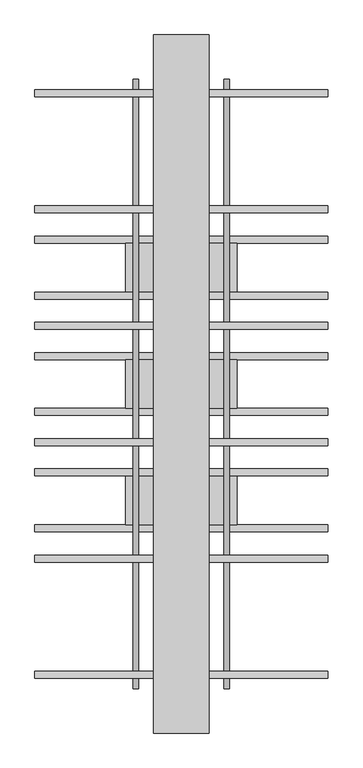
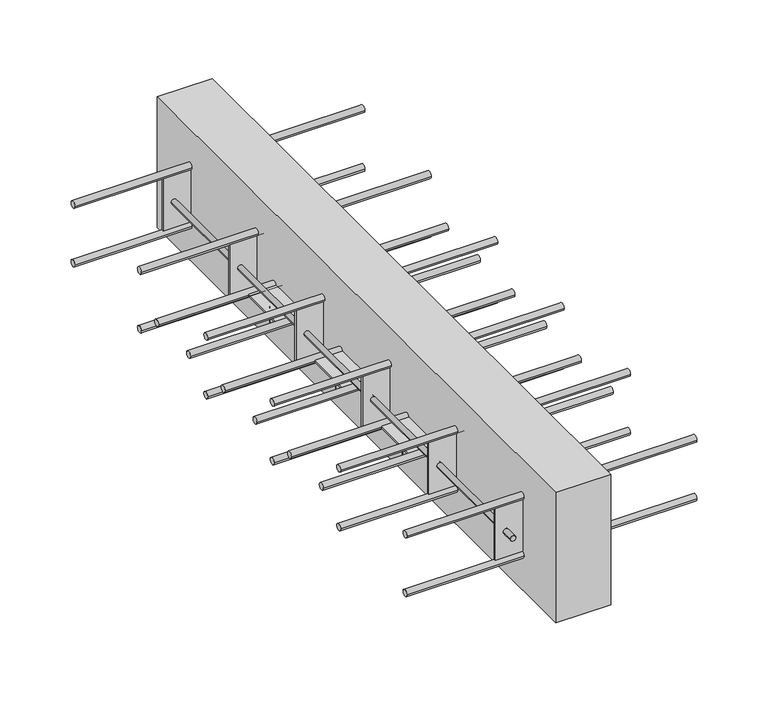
"""IFC4 building model written with IfcOpenShell, lengths in millimetres: proxy geometry, ACINOXplus_Typenreihe_Q : QE+ S3."""

from ifc_helpers import new_model, si_unit, point, frame, frame_2d, origin, place, context, project, spatial, polyline, circle_curve, trimmed, segment, composite_curve, outline, extrude, source, transform, mapped, element, save
from ifc_brep_helpers import plane_surface, cylinder_surface, advanced_brep


def generic_models_2d4dc69f(model_context):
    return source(origin(), model_context, "Body", "SolidModel", [
        extrude(outline(composite_curve([segment(trimmed(circle_curve(frame_2d((-40.0, -109.0)), 5.0), [point((-45.0, -109.0))], [point((-35.0, -109.0))], False, "CARTESIAN"), True, "CONTINUOUS"), segment(trimmed(circle_curve(frame_2d((-40.0, -109.0)), 5.0), [point((-35.0, -109.0))], [point((-45.0, -109.0))], False, "CARTESIAN"), True, "CONTINUOUS")], self_intersect=False)), frame((-210.0, 0.0, 0.0), z_axis=(1.0, 0.0, 0.0), x_axis=(0.0, 1.0, 0.0)), (0.0, 0.0, 1.0), 420.0),
        extrude(outline(composite_curve([segment(trimmed(circle_curve(frame_2d((40.0, -109.0)), 5.0), [point((35.0, -109.0))], [point((45.0, -109.0))], False, "CARTESIAN"), True, "CONTINUOUS"), segment(trimmed(circle_curve(frame_2d((40.0, -109.0)), 5.0), [point((45.0, -109.0))], [point((35.0, -109.0))], False, "CARTESIAN"), True, "CONTINUOUS")], self_intersect=False)), frame((-210.0, 0.0, 0.0), z_axis=(1.0, 0.0, 0.0), x_axis=(0.0, 1.0, 0.0)), (0.0, 0.0, 1.0), 420.0),
        advanced_brep(
        [(-69.0, 0.0, -137.0), (-61.0, 0.0, -137.0), (61.0, 0.0, -137.0), (69.0, 0.0, -137.0), (-61.0, 0.0, -110.5), (-69.0, 0.0, -110.5), (69.0, 0.0, -110.5), (61.0, 0.0, -110.5), (80.0, 35.0, -107.5), (-80.0, 35.0, -107.5), (-80.0, -35.0, -107.5), (80.0, -35.0, -107.5), (80.0, 35.0, -110.5), (80.0, -35.0, -110.5), (-80.0, -35.0, -110.5), (-80.0, 35.0, -110.5)],
        [
            (0, 1, circle_curve(frame((-65.0, 0.0, -137.0), z_axis=(0.0, 0.0, -1.0), x_axis=(1.0, 0.0, 0.0)), 4.0)),
            (1, 0, circle_curve(frame((-65.0, 0.0, -137.0), z_axis=(0.0, 0.0, -1.0), x_axis=(1.0, 0.0, 0.0)), 4.0)),
            (2, 3, circle_curve(frame((65.0, 0.0, -137.0), z_axis=(0.0, 0.0, -1.0), x_axis=(1.0, 0.0, 0.0)), 4.0)),
            (3, 2, circle_curve(frame((65.0, 0.0, -137.0), z_axis=(0.0, 0.0, -1.0), x_axis=(1.0, 0.0, 0.0)), 4.0)),
            (1, 4),
            (4, 5, circle_curve(frame((-65.0, 0.0, -110.5), z_axis=(0.0, 0.0, -1.0), x_axis=(1.0, 0.0, 0.0)), 4.0)),
            (5, 0),
            (5, 4, circle_curve(frame((-65.0, 0.0, -110.5), z_axis=(0.0, 0.0, -1.0), x_axis=(1.0, 0.0, 0.0)), 4.0)),
            (3, 6),
            (6, 7, circle_curve(frame((65.0, 0.0, -110.5), z_axis=(0.0, 0.0, -1.0), x_axis=(1.0, 0.0, 0.0)), 4.0)),
            (7, 2),
            (7, 6, circle_curve(frame((65.0, 0.0, -110.5), z_axis=(0.0, 0.0, -1.0), x_axis=(1.0, 0.0, 0.0)), 4.0)),
            (8, 9),
            (9, 10),
            (10, 11),
            (11, 8),
            (12, 13),
            (13, 14),
            (14, 15),
            (15, 12),
            (8, 12),
            (15, 9),
            (14, 10),
            (13, 11),
        ],
        [
            plane_surface(frame((-61.0, 0.0, -137.0), z_axis=(0.0, 0.0, -1.0), x_axis=(0.0, -1.0, 0.0))),
            cylinder_surface(frame((-65.0, 0.0, -137.0), z_axis=(0.0, 0.0, 1.0), x_axis=(1.0, 0.0, 0.0)), 4.0),
            cylinder_surface(frame((65.0, 0.0, -109.0), z_axis=(0.0, 0.0, 1.0), x_axis=(1.0, 0.0, 0.0)), 4.0),
            plane_surface(frame((-80.0, 35.0, -107.5), z_axis=(0.0, 0.0, 1.0), x_axis=(-1.0, 0.0, 0.0))),
            plane_surface(frame((-80.0, 35.0, -110.5), z_axis=(0.0, 0.0, -1.0), x_axis=(1.0, 0.0, 0.0))),
            plane_surface(frame((80.0, 35.0, -107.5), z_axis=(0.0, 1.0, 0.0), x_axis=(0.0, 0.0, -1.0))),
            plane_surface(frame((-80.0, 35.0, -107.5), z_axis=(-1.0, 0.0, 0.0), x_axis=(0.0, 0.0, -1.0))),
            plane_surface(frame((-80.0, -35.0, -107.5), z_axis=(0.0, -1.0, 0.0), x_axis=(0.0, 0.0, -1.0))),
            plane_surface(frame((80.0, -35.0, -107.5), z_axis=(1.0, 0.0, 0.0), x_axis=(0.0, 0.0, -1.0))),
        ],
        [
            (0, [[1, 2]]),
            (0, [[3, 4]]),
            (1, [[-2, 5, 6, 7]]),
            (1, [[-1, -7, 8, -5]]),
            (2, [[-4, 9, 10, 11]]),
            (2, [[-3, -11, 12, -9]]),
            (3, [[13, 14, 15, 16]]),
            (4, [[17, 18, 19, 20], [-6, -8], [-10, -12]]),
            (5, [[-13, 21, -20, 22]]),
            (6, [[-14, -22, -19, 23]]),
            (7, [[-15, -23, -18, 24]]),
            (8, [[-16, -24, -17, -21]]),
        ],
    ),
        extrude(outline(composite_curve([segment(trimmed(circle_curve(frame_2d((-206.6666667, -109.0)), 5.0), [point((-211.6666667, -109.0))], [point((-201.6666667, -109.0))], False, "CARTESIAN"), True, "CONTINUOUS"), segment(trimmed(circle_curve(frame_2d((-206.6666667, -109.0)), 5.0), [point((-201.6666667, -109.0))], [point((-211.6666667, -109.0))], False, "CARTESIAN"), True, "CONTINUOUS")], self_intersect=False)), frame((-210.0, 0.0, 0.0), z_axis=(1.0, 0.0, 0.0), x_axis=(0.0, 1.0, 0.0)), (0.0, 0.0, 1.0), 420.0),
        extrude(outline(composite_curve([segment(trimmed(circle_curve(frame_2d((-126.6666667, -109.0)), 5.0), [point((-131.6666667, -109.0))], [point((-121.6666667, -109.0))], False, "CARTESIAN"), True, "CONTINUOUS"), segment(trimmed(circle_curve(frame_2d((-126.6666667, -109.0)), 5.0), [point((-121.6666667, -109.0))], [point((-131.6666667, -109.0))], False, "CARTESIAN"), True, "CONTINUOUS")], self_intersect=False)), frame((-210.0, 0.0, 0.0), z_axis=(1.0, 0.0, 0.0), x_axis=(0.0, 1.0, 0.0)), (0.0, 0.0, 1.0), 420.0),
        advanced_brep(
        [(-69.0, -166.6666667, -137.0), (-61.0, -166.6666667, -137.0), (61.0, -166.6666667, -137.0), (69.0, -166.6666667, -137.0), (-61.0, -166.6666667, -110.5), (-69.0, -166.6666667, -110.5), (69.0, -166.6666667, -110.5), (61.0, -166.6666667, -110.5), (80.0, -131.6666667, -107.5), (-80.0, -131.6666667, -107.5), (-80.0, -201.6666667, -107.5), (80.0, -201.6666667, -107.5), (80.0, -131.6666667, -110.5), (80.0, -201.6666667, -110.5), (-80.0, -201.6666667, -110.5), (-80.0, -131.6666667, -110.5)],
        [
            (0, 1, circle_curve(frame((-65.0, -166.6666667, -137.0), z_axis=(0.0, 0.0, -1.0), x_axis=(1.0, 0.0, 0.0)), 4.0)),
            (1, 0, circle_curve(frame((-65.0, -166.6666667, -137.0), z_axis=(0.0, 0.0, -1.0), x_axis=(1.0, 0.0, 0.0)), 4.0)),
            (2, 3, circle_curve(frame((65.0, -166.6666667, -137.0), z_axis=(0.0, 0.0, -1.0), x_axis=(1.0, 0.0, 0.0)), 4.0)),
            (3, 2, circle_curve(frame((65.0, -166.6666667, -137.0), z_axis=(0.0, 0.0, -1.0), x_axis=(1.0, 0.0, 0.0)), 4.0)),
            (1, 4),
            (4, 5, circle_curve(frame((-65.0, -166.6666667, -110.5), z_axis=(0.0, 0.0, -1.0), x_axis=(1.0, 0.0, 0.0)), 4.0)),
            (5, 0),
            (5, 4, circle_curve(frame((-65.0, -166.6666667, -110.5), z_axis=(0.0, 0.0, -1.0), x_axis=(1.0, 0.0, 0.0)), 4.0)),
            (3, 6),
            (6, 7, circle_curve(frame((65.0, -166.6666667, -110.5), z_axis=(0.0, 0.0, -1.0), x_axis=(1.0, 0.0, 0.0)), 4.0)),
            (7, 2),
            (7, 6, circle_curve(frame((65.0, -166.6666667, -110.5), z_axis=(0.0, 0.0, -1.0), x_axis=(1.0, 0.0, 0.0)), 4.0)),
            (8, 9),
            (9, 10),
            (10, 11),
            (11, 8),
            (12, 13),
            (13, 14),
            (14, 15),
            (15, 12),
            (8, 12),
            (15, 9),
            (14, 10),
            (13, 11),
        ],
        [
            plane_surface(frame((-61.0, -166.6666667, -137.0), z_axis=(0.0, 0.0, -1.0), x_axis=(0.0, -1.0, 0.0))),
            cylinder_surface(frame((-65.0, -166.6666667, -137.0), z_axis=(0.0, 0.0, 1.0), x_axis=(1.0, 0.0, 0.0)), 4.0),
            cylinder_surface(frame((65.0, -166.6666667, -109.0), z_axis=(0.0, 0.0, 1.0), x_axis=(1.0, 0.0, 0.0)), 4.0),
            plane_surface(frame((-80.0, -131.6666667, -107.5), z_axis=(0.0, 0.0, 1.0), x_axis=(-1.0, 0.0, 0.0))),
            plane_surface(frame((-80.0, -131.6666667, -110.5), z_axis=(0.0, 0.0, -1.0), x_axis=(1.0, 0.0, 0.0))),
            plane_surface(frame((80.0, -131.6666667, -107.5), z_axis=(0.0, 1.0, 0.0), x_axis=(0.0, 0.0, -1.0))),
            plane_surface(frame((-80.0, -131.6666667, -107.5), z_axis=(-1.0, 0.0, 0.0), x_axis=(0.0, 0.0, -1.0))),
            plane_surface(frame((-80.0, -201.6666667, -107.5), z_axis=(0.0, -1.0, 0.0), x_axis=(0.0, 0.0, -1.0))),
            plane_surface(frame((80.0, -201.6666667, -107.5), z_axis=(1.0, 0.0, 0.0), x_axis=(0.0, 0.0, -1.0))),
        ],
        [
            (0, [[1, 2]]),
            (0, [[3, 4]]),
            (1, [[-2, 5, 6, 7]]),
            (1, [[-1, -7, 8, -5]]),
            (2, [[-4, 9, 10, 11]]),
            (2, [[-3, -11, 12, -9]]),
            (3, [[13, 14, 15, 16]]),
            (4, [[17, 18, 19, 20], [-6, -8], [-10, -12]]),
            (5, [[-13, 21, -20, 22]]),
            (6, [[-14, -22, -19, 23]]),
            (7, [[-15, -23, -18, 24]]),
            (8, [[-16, -24, -17, -21]]),
        ],
    ),
        extrude(outline(composite_curve([segment(trimmed(circle_curve(frame_2d((126.6666667, -109.0)), 5.0), [point((121.6666667, -109.0))], [point((131.6666667, -109.0))], False, "CARTESIAN"), True, "CONTINUOUS"), segment(trimmed(circle_curve(frame_2d((126.6666667, -109.0)), 5.0), [point((131.6666667, -109.0))], [point((121.6666667, -109.0))], False, "CARTESIAN"), True, "CONTINUOUS")], self_intersect=False)), frame((-210.0, 0.0, 0.0), z_axis=(1.0, 0.0, 0.0), x_axis=(0.0, 1.0, 0.0)), (0.0, 0.0, 1.0), 420.0),
        extrude(outline(composite_curve([segment(trimmed(circle_curve(frame_2d((206.6666667, -109.0)), 5.0), [point((201.6666667, -109.0))], [point((211.6666667, -109.0))], False, "CARTESIAN"), True, "CONTINUOUS"), segment(trimmed(circle_curve(frame_2d((206.6666667, -109.0)), 5.0), [point((211.6666667, -109.0))], [point((201.6666667, -109.0))], False, "CARTESIAN"), True, "CONTINUOUS")], self_intersect=False)), frame((-210.0, 0.0, 0.0), z_axis=(1.0, 0.0, 0.0), x_axis=(0.0, 1.0, 0.0)), (0.0, 0.0, 1.0), 420.0),
        advanced_brep(
        [(-69.0, 166.6666667, -137.0), (-61.0, 166.6666667, -137.0), (61.0, 166.6666667, -137.0), (69.0, 166.6666667, -137.0), (-61.0, 166.6666667, -110.5), (-69.0, 166.6666667, -110.5), (69.0, 166.6666667, -110.5), (61.0, 166.6666667, -110.5), (80.0, 201.6666667, -107.5), (-80.0, 201.6666667, -107.5), (-80.0, 131.6666667, -107.5), (80.0, 131.6666667, -107.5), (80.0, 201.6666667, -110.5), (80.0, 131.6666667, -110.5), (-80.0, 131.6666667, -110.5), (-80.0, 201.6666667, -110.5)],
        [
            (0, 1, circle_curve(frame((-65.0, 166.6666667, -137.0), z_axis=(0.0, 0.0, -1.0), x_axis=(1.0, 0.0, 0.0)), 4.0)),
            (1, 0, circle_curve(frame((-65.0, 166.6666667, -137.0), z_axis=(0.0, 0.0, -1.0), x_axis=(1.0, 0.0, 0.0)), 4.0)),
            (2, 3, circle_curve(frame((65.0, 166.6666667, -137.0), z_axis=(0.0, 0.0, -1.0), x_axis=(1.0, 0.0, 0.0)), 4.0)),
            (3, 2, circle_curve(frame((65.0, 166.6666667, -137.0), z_axis=(0.0, 0.0, -1.0), x_axis=(1.0, 0.0, 0.0)), 4.0)),
            (1, 4),
            (4, 5, circle_curve(frame((-65.0, 166.6666667, -110.5), z_axis=(0.0, 0.0, -1.0), x_axis=(1.0, 0.0, 0.0)), 4.0)),
            (5, 0),
            (5, 4, circle_curve(frame((-65.0, 166.6666667, -110.5), z_axis=(0.0, 0.0, -1.0), x_axis=(1.0, 0.0, 0.0)), 4.0)),
            (3, 6),
            (6, 7, circle_curve(frame((65.0, 166.6666667, -110.5), z_axis=(0.0, 0.0, -1.0), x_axis=(1.0, 0.0, 0.0)), 4.0)),
            (7, 2),
            (7, 6, circle_curve(frame((65.0, 166.6666667, -110.5), z_axis=(0.0, 0.0, -1.0), x_axis=(1.0, 0.0, 0.0)), 4.0)),
            (8, 9),
            (9, 10),
            (10, 11),
            (11, 8),
            (12, 13),
            (13, 14),
            (14, 15),
            (15, 12),
            (8, 12),
            (15, 9),
            (14, 10),
            (13, 11),
        ],
        [
            plane_surface(frame((-61.0, 166.6666667, -137.0), z_axis=(0.0, 0.0, -1.0), x_axis=(0.0, -1.0, 0.0))),
            cylinder_surface(frame((-65.0, 166.6666667, -137.0), z_axis=(0.0, 0.0, 1.0), x_axis=(1.0, 0.0, 0.0)), 4.0),
            cylinder_surface(frame((65.0, 166.6666667, -109.0), z_axis=(0.0, 0.0, 1.0), x_axis=(1.0, 0.0, 0.0)), 4.0),
            plane_surface(frame((-80.0, 201.6666667, -107.5), z_axis=(0.0, 0.0, 1.0), x_axis=(-1.0, 0.0, 0.0))),
            plane_surface(frame((-80.0, 201.6666667, -110.5), z_axis=(0.0, 0.0, -1.0), x_axis=(1.0, 0.0, 0.0))),
            plane_surface(frame((80.0, 201.6666667, -107.5), z_axis=(0.0, 1.0, 0.0), x_axis=(0.0, 0.0, -1.0))),
            plane_surface(frame((-80.0, 201.6666667, -107.5), z_axis=(-1.0, 0.0, 0.0), x_axis=(0.0, 0.0, -1.0))),
            plane_surface(frame((-80.0, 131.6666667, -107.5), z_axis=(0.0, -1.0, 0.0), x_axis=(0.0, 0.0, -1.0))),
            plane_surface(frame((80.0, 131.6666667, -107.5), z_axis=(1.0, 0.0, 0.0), x_axis=(0.0, 0.0, -1.0))),
        ],
        [
            (0, [[1, 2]]),
            (0, [[3, 4]]),
            (1, [[-2, 5, 6, 7]]),
            (1, [[-1, -7, 8, -5]]),
            (2, [[-4, 9, 10, 11]]),
            (2, [[-3, -11, 12, -9]]),
            (3, [[13, 14, 15, 16]]),
            (4, [[17, 18, 19, 20], [-6, -8], [-10, -12]]),
            (5, [[-13, 21, -20, 22]]),
            (6, [[-14, -22, -19, 23]]),
            (7, [[-15, -23, -18, 24]]),
            (8, [[-16, -24, -17, -21]]),
        ],
    ),
        extrude(outline(polyline([(40.0, 500.0), (40.0, -500.0), (-40.0, -500.0), (-40.0, 500.0), (40.0, 500.0)])), frame((0.0, 0.0, -200.0), z_axis=(0.0, 0.0, 1.0), x_axis=(1.0, 0.0, 0.0)), (0.0, 0.0, 1.0), 200.0),
        extrude(outline(polyline([(80.0, -248.5), (80.0, -251.5), (-80.0, -251.5), (-80.0, -248.5), (80.0, -248.5)])), frame((0.0, 0.0, -140.0), z_axis=(0.0, 0.0, 1.0), x_axis=(1.0, 0.0, 0.0)), (0.0, 0.0, 1.0), 80.0),
        extrude(outline(polyline([(80.0, -81.8333333), (80.0, -84.8333333), (-80.0, -84.8333333), (-80.0, -81.8333333), (80.0, -81.8333333)])), frame((0.0, 0.0, -140.0), z_axis=(0.0, 0.0, 1.0), x_axis=(1.0, 0.0, 0.0)), (0.0, 0.0, 1.0), 80.0),
        extrude(outline(polyline([(80.0, 84.8333333), (80.0, 81.8333333), (-80.0, 81.8333333), (-80.0, 84.8333333), (80.0, 84.8333333)])), frame((0.0, 0.0, -140.0), z_axis=(0.0, 0.0, 1.0), x_axis=(1.0, 0.0, 0.0)), (0.0, 0.0, 1.0), 80.0),
        extrude(outline(polyline([(80.0, 251.5), (80.0, 248.5), (-80.0, 248.5), (-80.0, 251.5), (80.0, 251.5)])), frame((0.0, 0.0, -140.0), z_axis=(0.0, 0.0, 1.0), x_axis=(1.0, 0.0, 0.0)), (0.0, 0.0, 1.0), 80.0),
        extrude(outline(polyline([(80.0, -415.1666667), (80.0, -418.1666667), (-80.0, -418.1666667), (-80.0, -415.1666667), (80.0, -415.1666667)])), frame((0.0, 0.0, -140.0), z_axis=(0.0, 0.0, 1.0), x_axis=(1.0, 0.0, 0.0)), (0.0, 0.0, 1.0), 80.0),
        extrude(outline(polyline([(80.0, 418.1666667), (80.0, 415.1666667), (-80.0, 415.1666667), (-80.0, 418.1666667), (80.0, 418.1666667)])), frame((0.0, 0.0, -140.0), z_axis=(0.0, 0.0, 1.0), x_axis=(1.0, 0.0, 0.0)), (0.0, 0.0, 1.0), 80.0),
        extrude(outline(composite_curve([segment(trimmed(circle_curve(frame_2d((-100.0, -65.0)), 4.0), [point((-100.0, -69.0))], [point((-100.0, -61.0))], False, "CARTESIAN"), True, "CONTINUOUS"), segment(trimmed(circle_curve(frame_2d((-100.0, -65.0)), 4.0), [point((-100.0, -61.0))], [point((-100.0, -69.0))], False, "CARTESIAN"), True, "CONTINUOUS")], self_intersect=False)), frame((0.0, -415.1666667, 0.0), z_axis=(0.0, 1.0, 0.0), x_axis=(0.0, 0.0, 1.0)), (0.0, 0.0, 1.0), 663.6666667),
        extrude(outline(composite_curve([segment(trimmed(circle_curve(frame_2d((-100.0, -65.0)), 4.0), [point((-100.0, -69.0))], [point((-100.0, -61.0))], False, "CARTESIAN"), True, "CONTINUOUS"), segment(trimmed(circle_curve(frame_2d((-100.0, -65.0)), 4.0), [point((-100.0, -61.0))], [point((-100.0, -69.0))], False, "CARTESIAN"), True, "CONTINUOUS")], self_intersect=False)), frame((0.0, 418.1666667, 0.0), z_axis=(0.0, 1.0, 0.0), x_axis=(0.0, 0.0, 1.0)), (0.0, 0.0, 1.0), 18.5),
        extrude(outline(composite_curve([segment(trimmed(circle_curve(frame_2d((-100.0, -65.0)), 4.0), [point((-100.0, -61.0))], [point((-100.0, -69.0))], False, "CARTESIAN"), True, "CONTINUOUS"), segment(trimmed(circle_curve(frame_2d((-100.0, -65.0)), 4.0), [point((-100.0, -69.0))], [point((-100.0, -61.0))], False, "CARTESIAN"), True, "CONTINUOUS")], self_intersect=False)), frame((0.0, -436.6666667, 0.0), z_axis=(0.0, 1.0, 0.0), x_axis=(0.0, 0.0, 1.0)), (0.0, 0.0, 1.0), 18.5),
        extrude(outline(composite_curve([segment(trimmed(circle_curve(frame_2d((-100.0, -65.0)), 4.0), [point((-100.0, -69.0))], [point((-100.0, -61.0))], False, "CARTESIAN"), True, "CONTINUOUS"), segment(trimmed(circle_curve(frame_2d((-100.0, -65.0)), 4.0), [point((-100.0, -61.0))], [point((-100.0, -69.0))], False, "CARTESIAN"), True, "CONTINUOUS")], self_intersect=False)), frame((0.0, 251.5, 0.0), z_axis=(0.0, 1.0, 0.0), x_axis=(0.0, 0.0, 1.0)), (0.0, 0.0, 1.0), 163.6666667),
        extrude(outline(composite_curve([segment(trimmed(circle_curve(frame_2d((-100.0, 65.0)), 4.0), [point((-100.0, 61.0))], [point((-100.0, 69.0))], False, "CARTESIAN"), True, "CONTINUOUS"), segment(trimmed(circle_curve(frame_2d((-100.0, 65.0)), 4.0), [point((-100.0, 69.0))], [point((-100.0, 61.0))], False, "CARTESIAN"), True, "CONTINUOUS")], self_intersect=False)), frame((0.0, -415.1666667, 0.0), z_axis=(0.0, 1.0, 0.0), x_axis=(0.0, 0.0, 1.0)), (0.0, 0.0, 1.0), 663.6666667),
        extrude(outline(composite_curve([segment(trimmed(circle_curve(frame_2d((-100.0, 65.0)), 4.0), [point((-100.0, 61.0))], [point((-100.0, 69.0))], False, "CARTESIAN"), True, "CONTINUOUS"), segment(trimmed(circle_curve(frame_2d((-100.0, 65.0)), 4.0), [point((-100.0, 69.0))], [point((-100.0, 61.0))], False, "CARTESIAN"), True, "CONTINUOUS")], self_intersect=False)), frame((0.0, 418.1666667, 0.0), z_axis=(0.0, 1.0, 0.0), x_axis=(0.0, 0.0, 1.0)), (0.0, 0.0, 1.0), 18.5),
        extrude(outline(composite_curve([segment(trimmed(circle_curve(frame_2d((-100.0, 65.0)), 4.0), [point((-100.0, 69.0))], [point((-100.0, 61.0))], False, "CARTESIAN"), True, "CONTINUOUS"), segment(trimmed(circle_curve(frame_2d((-100.0, 65.0)), 4.0), [point((-100.0, 61.0))], [point((-100.0, 69.0))], False, "CARTESIAN"), True, "CONTINUOUS")], self_intersect=False)), frame((0.0, -436.6666667, 0.0), z_axis=(0.0, 1.0, 0.0), x_axis=(0.0, 0.0, 1.0)), (0.0, 0.0, 1.0), 18.5),
        extrude(outline(composite_curve([segment(trimmed(circle_curve(frame_2d((-100.0, 65.0)), 4.0), [point((-100.0, 61.0))], [point((-100.0, 69.0))], False, "CARTESIAN"), True, "CONTINUOUS"), segment(trimmed(circle_curve(frame_2d((-100.0, 65.0)), 4.0), [point((-100.0, 69.0))], [point((-100.0, 61.0))], False, "CARTESIAN"), True, "CONTINUOUS")], self_intersect=False)), frame((0.0, 251.5, 0.0), z_axis=(0.0, 1.0, 0.0), x_axis=(0.0, 0.0, 1.0)), (0.0, 0.0, 1.0), 163.6666667),
        extrude(outline(composite_curve([segment(trimmed(circle_curve(frame_2d((83.3333333, -145.0)), 5.0), [point((78.3333333, -145.0))], [point((88.3333333, -145.0))], False, "CARTESIAN"), True, "CONTINUOUS"), segment(trimmed(circle_curve(frame_2d((83.3333333, -145.0)), 5.0), [point((88.3333333, -145.0))], [point((78.3333333, -145.0))], False, "CARTESIAN"), True, "CONTINUOUS")], self_intersect=False)), frame((-210.0, 0.0, 0.0), z_axis=(1.0, 0.0, 0.0), x_axis=(0.0, 1.0, 0.0)), (0.0, 0.0, 1.0), 420.0),
        extrude(outline(composite_curve([segment(trimmed(circle_curve(frame_2d((-83.3333333, -145.0)), 5.0), [point((-88.3333333, -145.0))], [point((-78.3333333, -145.0))], False, "CARTESIAN"), True, "CONTINUOUS"), segment(trimmed(circle_curve(frame_2d((-83.3333333, -145.0)), 5.0), [point((-78.3333333, -145.0))], [point((-88.3333333, -145.0))], False, "CARTESIAN"), True, "CONTINUOUS")], self_intersect=False)), frame((-210.0, 0.0, 0.0), z_axis=(1.0, 0.0, 0.0), x_axis=(0.0, 1.0, 0.0)), (0.0, 0.0, 1.0), 420.0),
        extrude(outline(composite_curve([segment(trimmed(circle_curve(frame_2d((250.0, -145.0)), 5.0), [point((245.0, -145.0))], [point((255.0, -145.0))], False, "CARTESIAN"), True, "CONTINUOUS"), segment(trimmed(circle_curve(frame_2d((250.0, -145.0)), 5.0), [point((255.0, -145.0))], [point((245.0, -145.0))], False, "CARTESIAN"), True, "CONTINUOUS")], self_intersect=False)), frame((-210.0, 0.0, 0.0), z_axis=(1.0, 0.0, 0.0), x_axis=(0.0, 1.0, 0.0)), (0.0, 0.0, 1.0), 420.0),
        extrude(outline(composite_curve([segment(trimmed(circle_curve(frame_2d((416.6666667, -145.0)), 5.0), [point((411.6666667, -145.0))], [point((421.6666667, -145.0))], False, "CARTESIAN"), True, "CONTINUOUS"), segment(trimmed(circle_curve(frame_2d((416.6666667, -145.0)), 5.0), [point((421.6666667, -145.0))], [point((411.6666667, -145.0))], False, "CARTESIAN"), True, "CONTINUOUS")], self_intersect=False)), frame((-210.0, 0.0, 0.0), z_axis=(1.0, 0.0, 0.0), x_axis=(0.0, 1.0, 0.0)), (0.0, 0.0, 1.0), 420.0),
        extrude(outline(composite_curve([segment(trimmed(circle_curve(frame_2d((-250.0, -145.0)), 5.0), [point((-255.0, -145.0))], [point((-245.0, -145.0))], False, "CARTESIAN"), True, "CONTINUOUS"), segment(trimmed(circle_curve(frame_2d((-250.0, -145.0)), 5.0), [point((-245.0, -145.0))], [point((-255.0, -145.0))], False, "CARTESIAN"), True, "CONTINUOUS")], self_intersect=False)), frame((-210.0, 0.0, 0.0), z_axis=(1.0, 0.0, 0.0), x_axis=(0.0, 1.0, 0.0)), (0.0, 0.0, 1.0), 420.0),
        extrude(outline(composite_curve([segment(trimmed(circle_curve(frame_2d((-416.6666667, -145.0)), 5.0), [point((-421.6666667, -145.0))], [point((-411.6666667, -145.0))], False, "CARTESIAN"), True, "CONTINUOUS"), segment(trimmed(circle_curve(frame_2d((-416.6666667, -145.0)), 5.0), [point((-411.6666667, -145.0))], [point((-421.6666667, -145.0))], False, "CARTESIAN"), True, "CONTINUOUS")], self_intersect=False)), frame((-210.0, 0.0, 0.0), z_axis=(1.0, 0.0, 0.0), x_axis=(0.0, 1.0, 0.0)), (0.0, 0.0, 1.0), 420.0),
        extrude(outline(composite_curve([segment(trimmed(circle_curve(frame_2d((83.3333333, -55.0)), 5.0), [point((78.3333333, -55.0))], [point((88.3333333, -55.0))], False, "CARTESIAN"), True, "CONTINUOUS"), segment(trimmed(circle_curve(frame_2d((83.3333333, -55.0)), 5.0), [point((88.3333333, -55.0))], [point((78.3333333, -55.0))], False, "CARTESIAN"), True, "CONTINUOUS")], self_intersect=False)), frame((-210.0, 0.0, 0.0), z_axis=(1.0, 0.0, 0.0), x_axis=(0.0, 1.0, 0.0)), (0.0, 0.0, 1.0), 420.0),
        extrude(outline(composite_curve([segment(trimmed(circle_curve(frame_2d((-83.3333333, -55.0)), 5.0), [point((-88.3333333, -55.0))], [point((-78.3333333, -55.0))], False, "CARTESIAN"), True, "CONTINUOUS"), segment(trimmed(circle_curve(frame_2d((-83.3333333, -55.0)), 5.0), [point((-78.3333333, -55.0))], [point((-88.3333333, -55.0))], False, "CARTESIAN"), True, "CONTINUOUS")], self_intersect=False)), frame((-210.0, 0.0, 0.0), z_axis=(1.0, 0.0, 0.0), x_axis=(0.0, 1.0, 0.0)), (0.0, 0.0, 1.0), 420.0),
        extrude(outline(composite_curve([segment(trimmed(circle_curve(frame_2d((250.0, -55.0)), 5.0), [point((245.0, -55.0))], [point((255.0, -55.0))], False, "CARTESIAN"), True, "CONTINUOUS"), segment(trimmed(circle_curve(frame_2d((250.0, -55.0)), 5.0), [point((255.0, -55.0))], [point((245.0, -55.0))], False, "CARTESIAN"), True, "CONTINUOUS")], self_intersect=False)), frame((-210.0, 0.0, 0.0), z_axis=(1.0, 0.0, 0.0), x_axis=(0.0, 1.0, 0.0)), (0.0, 0.0, 1.0), 420.0),
        extrude(outline(composite_curve([segment(trimmed(circle_curve(frame_2d((416.6666667, -55.0)), 5.0), [point((411.6666667, -55.0))], [point((421.6666667, -55.0))], False, "CARTESIAN"), True, "CONTINUOUS"), segment(trimmed(circle_curve(frame_2d((416.6666667, -55.0)), 5.0), [point((421.6666667, -55.0))], [point((411.6666667, -55.0))], False, "CARTESIAN"), True, "CONTINUOUS")], self_intersect=False)), frame((-210.0, 0.0, 0.0), z_axis=(1.0, 0.0, 0.0), x_axis=(0.0, 1.0, 0.0)), (0.0, 0.0, 1.0), 420.0),
        extrude(outline(composite_curve([segment(trimmed(circle_curve(frame_2d((-250.0, -55.0)), 5.0), [point((-255.0, -55.0))], [point((-245.0, -55.0))], False, "CARTESIAN"), True, "CONTINUOUS"), segment(trimmed(circle_curve(frame_2d((-250.0, -55.0)), 5.0), [point((-245.0, -55.0))], [point((-255.0, -55.0))], False, "CARTESIAN"), True, "CONTINUOUS")], self_intersect=False)), frame((-210.0, 0.0, 0.0), z_axis=(1.0, 0.0, 0.0), x_axis=(0.0, 1.0, 0.0)), (0.0, 0.0, 1.0), 420.0),
        extrude(outline(composite_curve([segment(trimmed(circle_curve(frame_2d((-416.6666667, -55.0)), 5.0), [point((-421.6666667, -55.0))], [point((-411.6666667, -55.0))], False, "CARTESIAN"), True, "CONTINUOUS"), segment(trimmed(circle_curve(frame_2d((-416.6666667, -55.0)), 5.0), [point((-411.6666667, -55.0))], [point((-421.6666667, -55.0))], False, "CARTESIAN"), True, "CONTINUOUS")], self_intersect=False)), frame((-210.0, 0.0, 0.0), z_axis=(1.0, 0.0, 0.0), x_axis=(0.0, 1.0, 0.0)), (0.0, 0.0, 1.0), 420.0),
    ])


if __name__ == "__main__":
    model = new_model("IFC4")
    model_context = context("Model", 3, world=origin())
    ifc_project = project(units=[si_unit("LENGTHUNIT", "METRE", prefix="MILLI")], contexts=[model_context])
    site = spatial("IfcSite", under=ifc_project)
    building = spatial("IfcBuilding", under=site)
    placement = place(None, origin())
    generic_models_shape = generic_models_2d4dc69f(model_context)
    element("IfcBuildingElementProxy", 1, Name="ACINOXplus_Typenreihe_Q : QE+ S3", ObjectType="ACINOXplus_Typenreihe_Q : QE+ S3", at=placement, inside=building, context=model_context, shape_type="MappedRepresentation", body=[
        mapped(generic_models_shape, transform((0.0, 0.0, 0.0), x_axis=(1.0, 0.0, 0.0), y_axis=(0.0, 1.0, 0.0), z_axis=(0.0, 0.0, 1.0))),
    ])
    save(model, "model.ifc")
